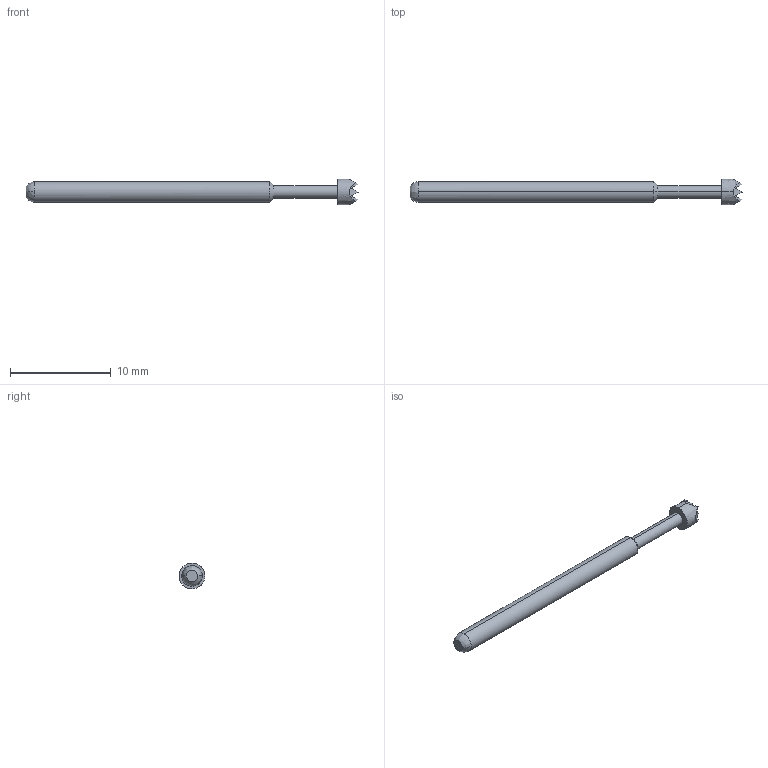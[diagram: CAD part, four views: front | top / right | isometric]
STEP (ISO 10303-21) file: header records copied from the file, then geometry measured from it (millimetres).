
FILE_DESCRIPTION (( 'STEP AP214' ), '1' );
FILE_NAME ('PA5H.STEP', '2024-09-04T13:56:22', ( '' ), ( '' ), 'SwSTEP 2.0', 'SolidWorks 2024', '' );
FILE_SCHEMA (( 'AUTOMOTIVE_DESIGN' ));
Length unit declared in the file: inch
Products named in the file (1): PA5H
Bounding box: 33.02 x 2.54 x 2.54 mm (x, y, z)
Volume: 94.9 mm3; surface area: 208.9 mm2
Topology: 1 solids, 1 shells, 40 faces, 78 edges, 41 vertices
Faces by surface type: bspline 40
Entity records: 1161 total; most frequent: CARTESIAN_POINT 634, ORIENTED_EDGE 156, EDGE_CURVE 78, B_SPLINE_CURVE_WITH_KNOTS 66, VERTEX_POINT 41, EDGE_LOOP 41, FACE_OUTER_BOUND 40, ADVANCED_FACE 40
